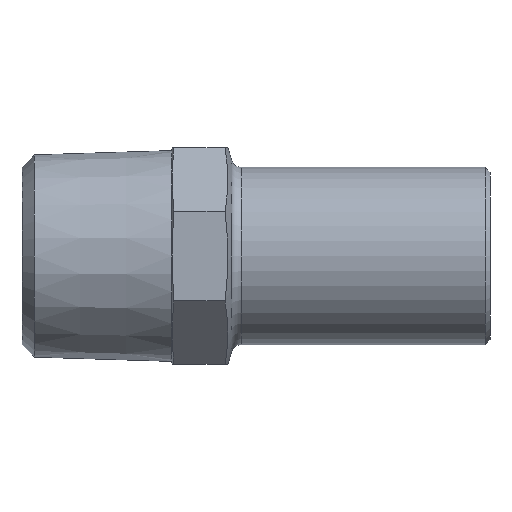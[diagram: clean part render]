
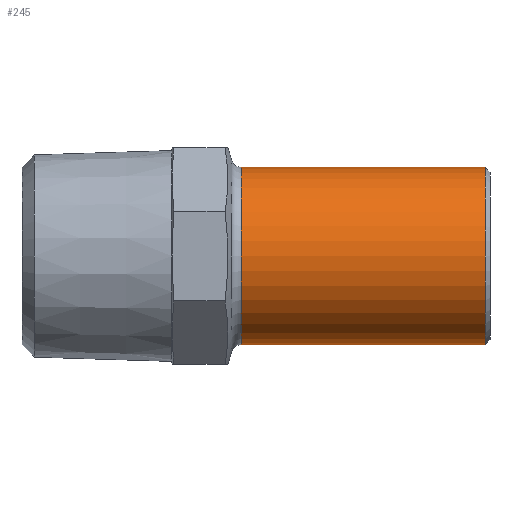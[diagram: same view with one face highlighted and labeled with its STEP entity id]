
A CAD part, left-side view. The second image highlights one B-rep face of the part: STEP entity #245.
In plain terms, the highlighted cylindrical face has radius 9 mm (diameter 18 mm), a partial arc.
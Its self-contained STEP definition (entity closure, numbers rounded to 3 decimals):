
#49 = FACE_OUTER_BOUND ( 'NONE', #885, .T. ) ;
#52 = CARTESIAN_POINT ( 'NONE',  ( 0., 25.26, -9. ) ) ;
#69 = CIRCLE ( 'NONE', #796, 9. ) ;
#76 = CARTESIAN_POINT ( 'NONE',  ( 0., -17.811, 9. ) ) ;
#111 = ORIENTED_EDGE ( 'NONE', *, *, #1010, .F. ) ;
#112 = VERTEX_POINT ( 'NONE', #403 ) ;
#209 = DIRECTION ( 'NONE',  ( 0., -1., 0. ) ) ;
#212 = VECTOR ( 'NONE', #390, 1000. ) ;
#240 = ORIENTED_EDGE ( 'NONE', *, *, #1052, .T. ) ;
#245 = ADVANCED_FACE ( 'NONE', ( #49 ), #863, .T. ) ;
#276 = VERTEX_POINT ( 'NONE', #52 ) ;
#325 = VERTEX_POINT ( 'NONE', #635 ) ;
#352 = DIRECTION ( 'NONE',  ( 0., 0., -1. ) ) ;
#390 = DIRECTION ( 'NONE',  ( 0., -1., 0. ) ) ;
#399 = AXIS2_PLACEMENT_3D ( 'NONE', #869, #912, #352 ) ;
#403 = CARTESIAN_POINT ( 'NONE',  ( 0., 0.5, 9. ) ) ;
#450 = AXIS2_PLACEMENT_3D ( 'NONE', #519, #758, #997 ) ;
#473 = VERTEX_POINT ( 'NONE', #757 ) ;
#519 = CARTESIAN_POINT ( 'NONE',  ( 0., 0.5, 0. ) ) ;
#578 = ORIENTED_EDGE ( 'NONE', *, *, #843, .T. ) ;
#635 = CARTESIAN_POINT ( 'NONE',  ( 0., 0.5, -9. ) ) ;
#640 = CIRCLE ( 'NONE', #450, 9. ) ;
#658 = CARTESIAN_POINT ( 'NONE',  ( 0., 25.26, 0. ) ) ;
#747 = ORIENTED_EDGE ( 'NONE', *, *, #927, .F. ) ;
#757 = CARTESIAN_POINT ( 'NONE',  ( 0., 25.26, 9. ) ) ;
#758 = DIRECTION ( 'NONE',  ( 0., -1., 0. ) ) ;
#762 = CARTESIAN_POINT ( 'NONE',  ( 0., -17.811, -9. ) ) ;
#787 = DIRECTION ( 'NONE',  ( 0., -1., 0. ) ) ;
#796 = AXIS2_PLACEMENT_3D ( 'NONE', #658, #787, #809 ) ;
#797 = LINE ( 'NONE', #76, #987 ) ;
#809 = DIRECTION ( 'NONE',  ( 0., 0., -1. ) ) ;
#843 = EDGE_CURVE ( 'NONE', #473, #276, #69, .T. ) ;
#863 = CYLINDRICAL_SURFACE ( 'NONE', #399, 9. ) ;
#869 = CARTESIAN_POINT ( 'NONE',  ( 0., -17.811, 0. ) ) ;
#885 = EDGE_LOOP ( 'NONE', ( #111, #578, #240, #747 ) ) ;
#912 = DIRECTION ( 'NONE',  ( 0., -1., 0. ) ) ;
#927 = EDGE_CURVE ( 'NONE', #112, #325, #640, .T. ) ;
#987 = VECTOR ( 'NONE', #209, 1000. ) ;
#997 = DIRECTION ( 'NONE',  ( 0., 0., -1. ) ) ;
#1004 = LINE ( 'NONE', #762, #212 ) ;
#1010 = EDGE_CURVE ( 'NONE', #473, #112, #797, .T. ) ;
#1052 = EDGE_CURVE ( 'NONE', #276, #325, #1004, .T. ) ;
